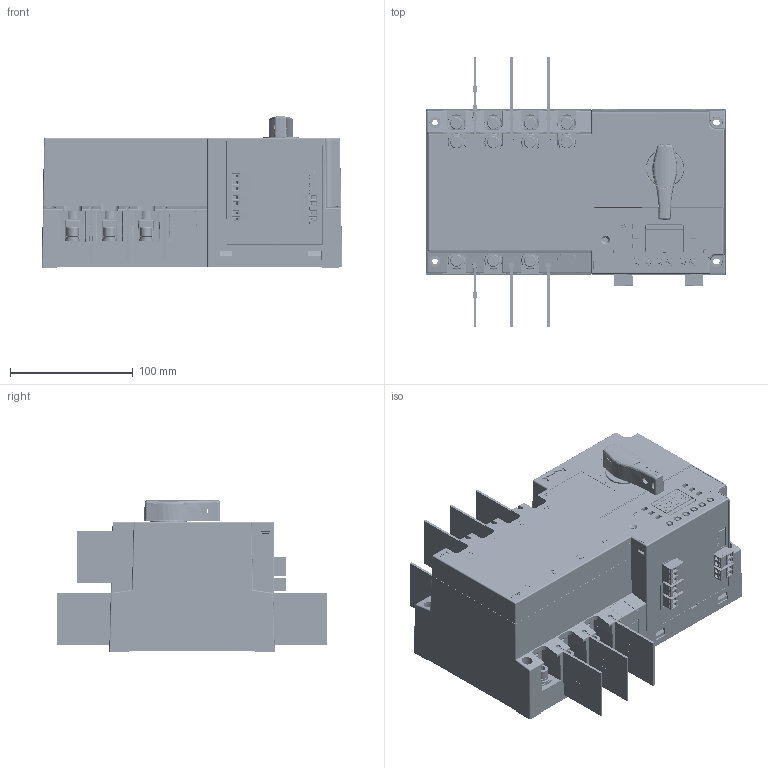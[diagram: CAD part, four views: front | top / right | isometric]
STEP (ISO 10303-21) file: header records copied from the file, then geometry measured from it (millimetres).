
FILE_DESCRIPTION (( 'STEP AP203' ), '1' );
FILE_NAME ('NDQ2A-125H價掛倰-3P耀倰芞.STEP', '2023-09-07T03:11:45', ( '' ), ( '' ), 'SwSTEP 2.0', 'SolidWorks 2018', '' );
FILE_SCHEMA (( 'CONFIG_CONTROL_DESIGN' ));
Length unit declared in the file: millimetre
Products named in the file (91): 2EDG-3P脣芛褲-1; 諷秶菁釱3-1; 2EDG-2P眻褐韁宒傷赽-5; 掘蚚萇埭揖芛-1; 2EDG-2P脣芛褲-1; M6-16囀鞠褒郪磁蹟隊-17; 2EDG-3P脣芛裔-1; 掘蚚笢裔1-1; M4X35三组和螺钉-11; 备用进线触头组件-8; 2EDG-2P眻褐脣釱-5; 2EDG-3P脣芛-1; M4蹟譫(GB_FASTENER_NUT_SNAB1 M4-N)-1; 都蚚菁釱-1; 常用出线触头组件-4; 路說え-1; M6-16囀鞠褒郪磁蹟隊-10; 2EDG-2P眻褐脣釱-6; M6-16囀鞠褒郪磁蹟隊-9; 粟菜4(GB_FASTENER_WASHER_SSWL 4)-1; 备用进线触头组件-5; M6鞠褒楊擘醱蹟譫(GB_HEXAGON_TYPE12 M6-N)-1; 6mm平垫(GB_FASTENER_WASHER_SMWC 6)-1; 常用出线触头组件-7; M4X28三组和螺钉-5; 坶諶-1; M4X28三组和螺钉-7; 2EDG-2P脣芛-7; 2EDG-2P眻褐韁宒傷赽-7; 掘蚚羲壽菁釱1-1; 2EDG-2P眻褐韁宒傷赽-6; す菜4(GB_FASTENER_WASHER_PWNA 4)-1; 杅鎢奪-1; 2EDG-眻褐渀-1; M6-16囀鞠褒郪磁蹟隊-13; 2EDG-2P脣芛裔-1; M6-16囀鞠褒郪磁蹟隊-11; 硌尨腑-1; M6-16囀鞠褒郪磁蹟隊-14; 2EDG-2P眻褐脣釱-4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
Assembly tree (243 placements, depth 6):
  NDQ2A-125H價掛倰-3P耀倰芞
    常用进线触头组件-4
      掘蚚萇埭揖芛-1
    常用出线触头组件-4
      M6-16囀鞠褒郪磁蹟隊-9
        M6鞠褒楊擘醱蹟譫(GB_HEXAGON_TYPE12 M6-N)-1
        6mm粟菜(GB_FASTENER_WASHER_SW 6)-1
        6mm平垫(GB_FASTENER_WASHER_SMWC 6)-1
      蛹婥揖芛-1
    常用出线触头组件-5
      M6-16囀鞠褒郪磁蹟隊-10
        M6鞠褒楊擘醱蹟譫(GB_HEXAGON_TYPE12 M6-N)-1
        6mm粟菜(GB_FASTENER_WASHER_SW 6)-1
        6mm平垫(GB_FASTENER_WASHER_SMWC 6)-1
      蛹婥揖芛-1
    常用出线触头组件-6
      M6-16囀鞠褒郪磁蹟隊-11
        M6鞠褒楊擘醱蹟譫(GB_HEXAGON_TYPE12 M6-N)-1
        6mm粟菜(GB_FASTENER_WASHER_SW 6)-1
        6mm平垫(GB_FASTENER_WASHER_SMWC 6)-1
      蛹婥揖芛-1
    常用进线触头组件-5
      掘蚚萇埭揖芛-1
    常用进线触头组件-6
      掘蚚萇埭揖芛-1
    备用进线触头组件-5
      M6-16囀鞠褒郪磁蹟隊-12
        M6鞠褒楊擘醱蹟譫(GB_HEXAGON_TYPE12 M6-N)-1
        6mm粟菜(GB_FASTENER_WASHER_SW 6)-1
        6mm平垫(GB_FASTENER_WASHER_SMWC 6)-1
      都蚚萇埭揖芛-1
    备用进线触头组件-6
      M6-16囀鞠褒郪磁蹟隊-13
        M6鞠褒楊擘醱蹟譫(GB_HEXAGON_TYPE12 M6-N)-1
        6mm粟菜(GB_FASTENER_WASHER_SW 6)-1
        6mm平垫(GB_FASTENER_WASHER_SMWC 6)-1
      都蚚萇埭揖芛-1
    备用进线触头组件-7
      M6-16囀鞠褒郪磁蹟隊-14
        M6鞠褒楊擘醱蹟譫(GB_HEXAGON_TYPE12 M6-N)-1
        6mm粟菜(GB_FASTENER_WASHER_SW 6)-1
        6mm平垫(GB_FASTENER_WASHER_SMWC 6)-1
      都蚚萇埭揖芛-1
    諷秶ん1-1
      翋啣-1
        2EDG-3P眻褐韁宒傷赽-1
          2EDG-3P眻褐脣釱-1
            2EDG-3P脣釱褲-1
            2EDG-眻褐渀-1  x3
          2EDG-3P脣芛-1
            2EDG-3P脣芛褲-1
            2EDG-絳盄諶-1  x3
            2EDG-蹟隊-1  x3
            2EDG-脣芛郋-1  x3
            2EDG-3P脣芛裔-1
        2EDG-2P眻褐韁宒傷赽-4
          2EDG-2P眻褐脣釱-4
            2EDG-眻褐渀-1  x2
            2EDG-2P脣釱褲-1
          2EDG-2P脣芛-4
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Bounding box: 245.02 x 220 x 123.7 mm (x, y, z)
Volume: 1020127.2 mm3; surface area: 826059.5 mm2
Topology: 196 solids, 201 shells, 17864 faces, 48562 edges, 31399 vertices
Faces by surface type: plane 10320, cylinder 5176, cone 1168, bspline 1029, sphere 86, torus 85
Entity records: 580243 total; most frequent: CARTESIAN_POINT 225826, ORIENTED_EDGE 77588, DIRECTION 60926, EDGE_CURVE 38794, VECTOR 25586, LINE 25586, VERTEX_POINT 25412, AXIS2_PLACEMENT_3D 17670
